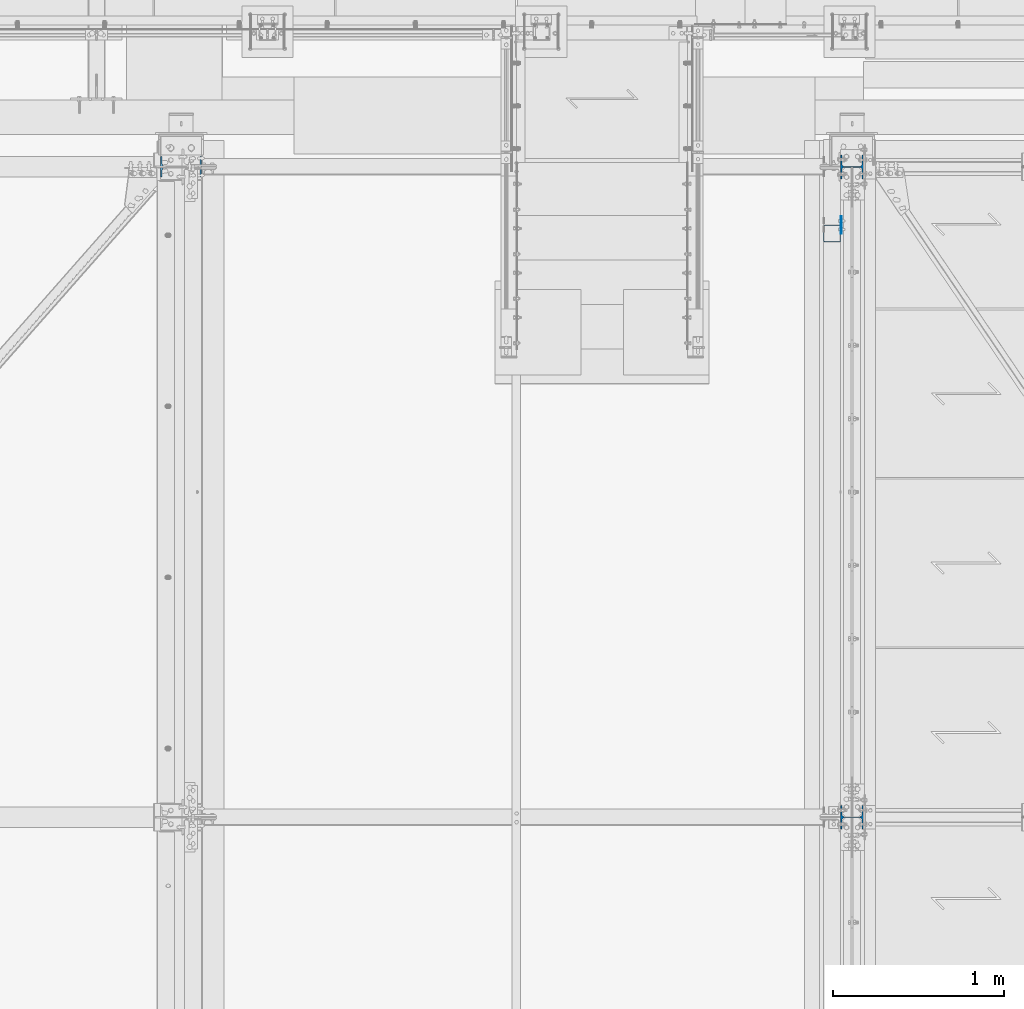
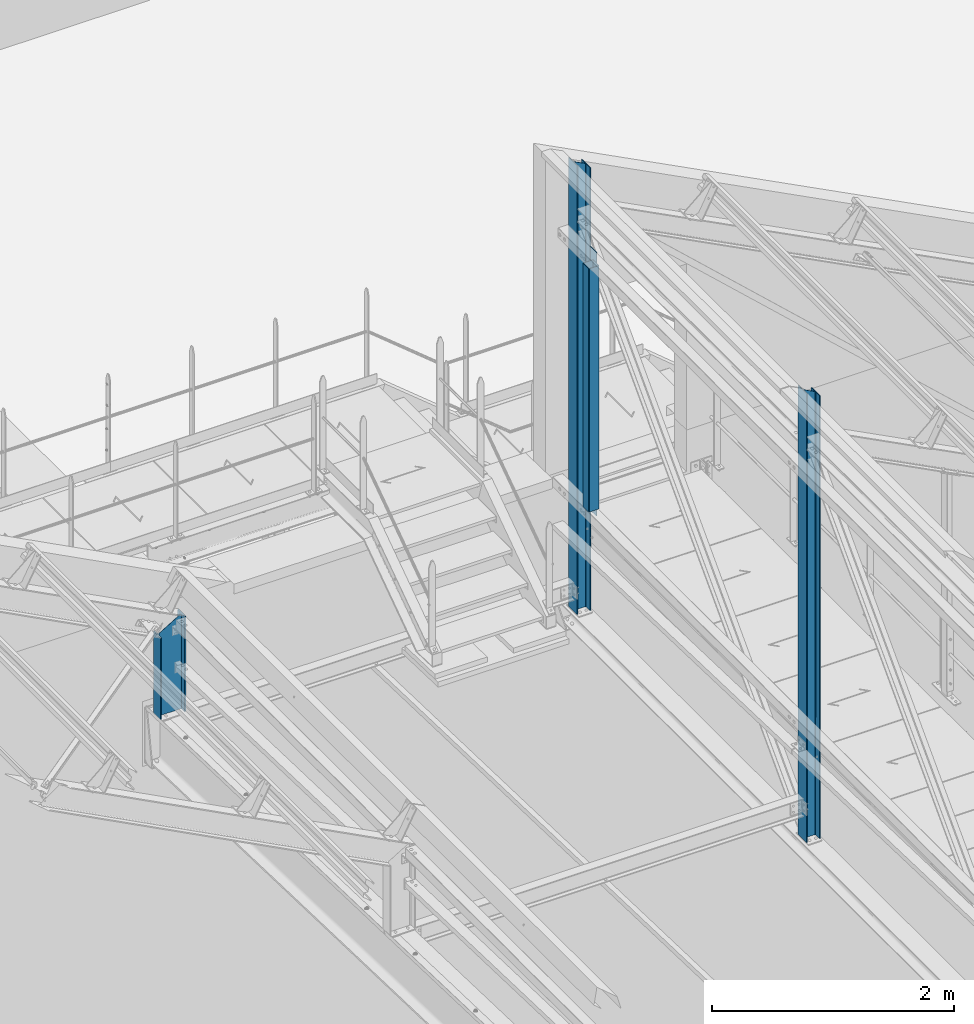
# One storey, part 12 of 362: 5 columns, 4 elements without a shape of their own.
"""IFC2X3 building model written with IfcOpenShell, lengths in millimetres."""

from ifc_helpers import new_model, si_unit, frame, origin_with_axes, origin_2d_with_axis, place, context, subcontext, project, spatial, rectangle, hollow_rectangle, i_section, extrude, clip, halfspace, material, type_object, element, aggregate, save


model = new_model("IFC2X3")

# Units and contexts
model_context = context("Model", 3, precision=1e-05, world=origin_with_axes())
body_context = subcontext(model_context, "Body", "Model", "MODEL_VIEW")
ifc_project = project(units=[si_unit("LENGTHUNIT", "METRE", prefix="MILLI"), si_unit("AREAUNIT", "SQUARE_METRE"), si_unit("VOLUMEUNIT", "CUBIC_METRE"), si_unit("MASSUNIT", "GRAM", prefix="KILO"), si_unit("TIMEUNIT", "SECOND"), si_unit("PLANEANGLEUNIT", "RADIAN"), si_unit("SOLIDANGLEUNIT", "STERADIAN"), si_unit("THERMODYNAMICTEMPERATUREUNIT", "DEGREE_CELSIUS"), si_unit("LUMINOUSINTENSITYUNIT", "LUMEN")], contexts=[model_context])

# Site, building, storey
site_placement = place(None, origin_with_axes())
site = spatial("IfcSite", under=ifc_project, at=site_placement, Name="Undefined", CompositionType="ELEMENT")
building_placement = place(site_placement, origin_with_axes())
building = spatial("IfcBuilding", under=site, at=building_placement, Name="Undefined", CompositionType="ELEMENT")
storey_placement = place(building_placement, origin_with_axes())
storey = spatial("IfcBuildingStorey", under=building, at=storey_placement, Name="Undefined", CompositionType="ELEMENT", Elevation=0.0)

# Assembly, column
assembly_1_placement = place(storey_placement, origin_with_axes())
assembly_1 = element("IfcElementAssembly", 1, at=assembly_1_placement, inside=storey, Name="MONTANT", AssemblyPlace="NOTDEFINED", PredefinedType="NOTDEFINED")
ifc_material_1 = material(Name="Undefined/S235-E24")
column_type_1 = type_object("IfcColumnType", Name="TUBE-C-100*100*4", PredefinedType="NOTDEFINED")
column_1_placement = place(assembly_1_placement, frame((23353.5000106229, 14810.0000783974, 8555.00000000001), z_axis=(0.0, 0.0, 1.0), x_axis=(0.0, 1.0, 0.0)))
column_1 = element("IfcColumn", 2, at=column_1_placement, type_object=column_type_1, material=ifc_material_1, Name="MONTANT", ObjectType="TUBE-C-100*100*4", context=body_context, shape_type="SweptSolid", body=[
    extrude(hollow_rectangle(XDim=100.0, YDim=100.0, WallThickness=4.0, InnerFilletRadius=4.0, OuterFilletRadius=8.0, at=origin_2d_with_axis()), frame((0.0, 0.0, 2460.0), z_axis=(0.0, 0.0, -1.0), x_axis=(0.0, 1.0, 0.0)), (0.0, 0.0, 1.0), 2460.0),
])

assembly_2_placement = place(storey_placement, origin_with_axes())
assembly_2 = element("IfcElementAssembly", 3, at=assembly_2_placement, inside=storey, Name="MONTANT", AssemblyPlace="NOTDEFINED", PredefinedType="NOTDEFINED")
ifc_material_2 = material(Name="Undefined/S275-E28")
column_type_2 = type_object("IfcColumnType", Name="HEA140", PredefinedType="NOTDEFINED")
column_2_placement = place(assembly_2_placement, frame((23470.0, 15200.0, 7260.0), z_axis=(0.0, 0.0, 1.0), x_axis=(-1.0, 0.0, 0.0)))
column_2 = element("IfcColumn", 4, at=column_2_placement, type_object=column_type_2, material=ifc_material_2, Name="MONTANT", ObjectType="HEA140", context=body_context, shape_type="Clipping", body=[
    clip(extrude(i_section(OverallWidth=140.0, OverallDepth=133.0, WebThickness=5.5, FlangeThickness=8.5, FilletRadius=12.0, at=origin_2d_with_axis()), frame((0.0, 0.0, 4551.40988027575), z_axis=(0.0, 0.0, -1.0), x_axis=(0.0, 1.0, 0.0)), (0.0, 0.0, 1.0), 4551.41), halfspace(frame((-66.5, 70.0, 4471.22657322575), z_axis=(-0.460093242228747, -7.1029704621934e-09, 0.887870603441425), x_axis=(0.887870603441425, 0.0, 0.460093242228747)), False)),
])
aggregate(assembly_2, [column_2])

assembly_3_placement = place(storey_placement, origin_with_axes())
assembly_3 = element("IfcElementAssembly", 5, at=assembly_3_placement, inside=storey, Name="MONTANT", AssemblyPlace="NOTDEFINED", PredefinedType="NOTDEFINED")
column_3_placement = place(assembly_3_placement, frame((23470.0, 11400.0, 7260.0), z_axis=(0.0, 0.0, 1.0), x_axis=(-1.0, 0.0, 0.0)))
column_3 = element("IfcColumn", 6, at=column_3_placement, type_object=column_type_2, material=ifc_material_2, Name="MONTANT", ObjectType="HEA140", context=body_context, shape_type="Clipping", body=[
    clip(extrude(i_section(OverallWidth=140.0, OverallDepth=133.0, WebThickness=5.5, FlangeThickness=8.5, FilletRadius=12.0, at=origin_2d_with_axis()), frame((0.0, 0.0, 4551.40988027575), z_axis=(0.0, 0.0, -1.0), x_axis=(0.0, 1.0, 0.0)), (0.0, 0.0, 1.0), 4551.41), halfspace(frame((-66.5, 70.0, 4471.22657322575), z_axis=(-0.460093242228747, -7.1029704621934e-09, 0.887870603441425), x_axis=(0.887870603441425, 0.0, 0.460093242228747)), False)),
])
aggregate(assembly_3, [column_3])

# Column
column_type_3 = type_object("IfcColumnType", Name="PL100*5", PredefinedType="NOTDEFINED")
column_4_placement = place(assembly_1_placement, frame((23406.0000000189, 14860.0000783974, 8450.0), z_axis=(0.0, 0.0, 1.0), x_axis=(0.0, 1.0, 0.0)))
column_4 = element("IfcColumn", 7, at=column_4_placement, type_object=column_type_3, material=ifc_material_1, Name="FEUILLURE", ObjectType="PL100*5", context=body_context, shape_type="SweptSolid", body=[
    extrude(rectangle(XDim=5.0, YDim=100.0, at=origin_2d_with_axis()), frame((0.0, 0.0, 2670.0), z_axis=(0.0, 0.0, -1.0), x_axis=(0.0, 1.0, 0.0)), (0.0, 0.0, 1.0), 2670.0),
])

aggregate(assembly_1, [column_4, column_1])

# Assembly, column
assembly_4_placement = place(storey_placement, origin_with_axes())
assembly_4 = element("IfcElementAssembly", 8, at=assembly_4_placement, inside=storey, Name="TRAVERSE SHED", AssemblyPlace="NOTDEFINED", PredefinedType="NOTDEFINED")
column_type_4 = type_object("IfcColumnType", Name="IPE240", PredefinedType="NOTDEFINED")
column_5_placement = place(assembly_4_placement, frame((19550.0, 15200.0, 7572.32075715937), z_axis=(0.0, 0.0, 1.0), x_axis=(-1.0, 0.0, 0.0)))
column_5 = element("IfcColumn", 9, at=column_5_placement, type_object=column_type_4, material=ifc_material_2, Name="TRAVERSE SHED", ObjectType="IPE240", context=body_context, shape_type="Clipping", body=[
    clip(clip(extrude(i_section(OverallWidth=120.0, OverallDepth=240.0, WebThickness=6.199999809, FlangeThickness=9.800000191, FilletRadius=15.0, at=origin_2d_with_axis()), frame((0.0, 0.0, 980.31021404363), z_axis=(0.0, 0.0, -1.0), x_axis=(0.0, 1.0, 0.0)), (0.0, 0.0, 1.0), 1045.59), halfspace(frame((-120.000000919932, 11400.0, 977.679244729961), z_axis=(0.517914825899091, 0.0, 0.855432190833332), x_axis=(0.0, 1.0, 0.0)), False)), halfspace(frame((0.0, -74.9626762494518, 7.64915511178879), z_axis=(0.0, 0.031410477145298, -0.999506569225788), x_axis=(1.0, 0.0, 0.0)), False)),
])
aggregate(assembly_4, [column_5])

save(model, "model.ifc")
